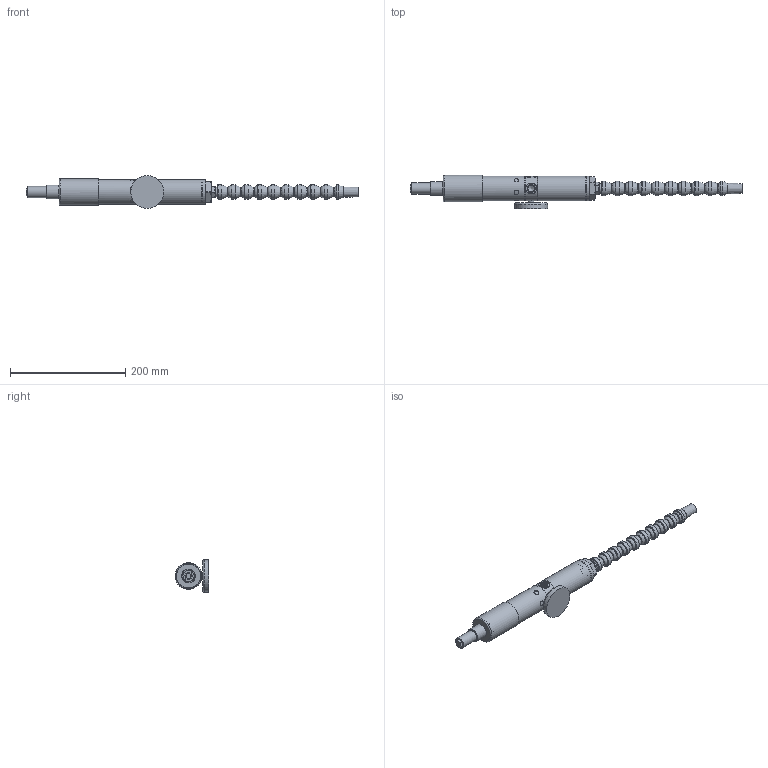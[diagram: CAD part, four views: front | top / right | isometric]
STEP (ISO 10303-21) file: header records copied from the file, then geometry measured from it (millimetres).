
FILE_DESCRIPTION (( 'STEP AP214' ), '1' );
FILE_NAME ('SIMP - CS_15 R.STEP', '2023-06-02T11:32:27', ( '' ), ( '' ), 'SwSTEP 2.0', 'SolidWorks 2021', '' );
FILE_SCHEMA (( 'AUTOMOTIVE_DESIGN' ));
Length unit declared in the file: millimetre
Products named in the file (1): SIMP - CS_15 R
Bounding box: 574.99 x 58 x 57 mm (x, y, z)
Volume: 463079.8 mm3; surface area: 103280.6 mm2
Topology: 17 solids, 22 shells, 919 faces, 2297 edges, 1491 vertices
Faces by surface type: plane 360, bspline 287, cylinder 176, cone 56, torus 40
Full cylindrical faces by diameter (mm): 3.2 x1, 3.3 x1, 4 x1, 6 x1, 6.5 x1, 7 x1, 8 x6, 9 x1, 9.4 x1, 9.5 x1, 10 x1, 11.8 x7, 12.2 x1, 12.3 x9, 13 x1, 13.16 x1, 14.2 x1, 16.2 x1, 16.3 x9, 19 x2, 19.3 x1, 21 x10, 23.9 x1, 25 x10, 35.8 x1, 39.8 x2, 40 x1, 40.4 x1, 40.47 x2, 43 x6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
Entity records: 49273 total; most frequent: CARTESIAN_POINT 21227, ORIENTED_EDGE 4124, DIRECTION 2792, EDGE_CURVE 2062, VERTEX_POINT 1434, EDGE_LOOP 1190, AXIS2_PLACEMENT_3D 1148, FACE_OUTER_BOUND 1031
